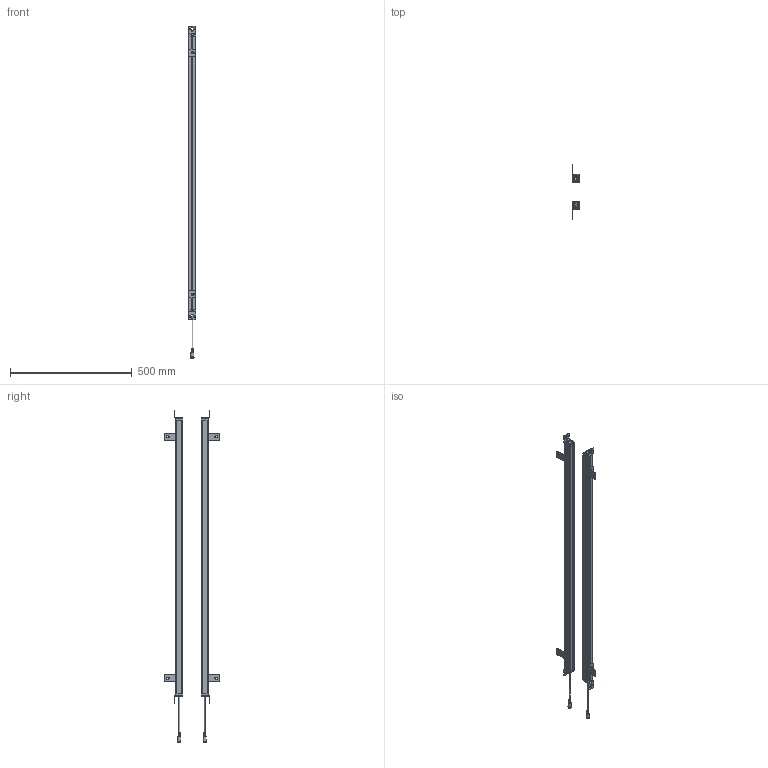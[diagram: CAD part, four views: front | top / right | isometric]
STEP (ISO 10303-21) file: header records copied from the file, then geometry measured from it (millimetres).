
FILE_DESCRIPTION(/* description */ (''),/* implementation_level */ '2;1');
FILE_NAME(/* name */ '5620（29x30）.stp',/* time_stamp */ '2023-04-28T14:33:51+08:00',/* author */ (''),/* organization */ (''),/* preprocessor_version */ 'ST-DEVELOPER v16.7',/* originating_system */ 'SIEMENS PLM Software NX 12.0',/* authorisation */ '');
FILE_SCHEMA (('AUTOMOTIVE_DESIGN { 1 0 10303 214 3 1 1 1 }'));
Products named in the file (1): 5620（29x30）_stp
Bounding box: 32.03 x 223.99 x 1361 mm (x, y, z)
Volume: 713777.7 mm3; surface area: 735856.7 mm2
Topology: 34 solids, 34 shells, 1610 faces, 4267 edges, 2771 vertices
Faces by surface type: plane 750, cylinder 648, bspline 88, sphere 36, cone 36, torus 32, extrusion 20
Full cylindrical faces by diameter (mm): 1.533 x6, 4.4 x4, 9 x2, 12.5 x2
Entity records: 56427 total; most frequent: CARTESIAN_POINT 16064, DIRECTION 8330, ORIENTED_EDGE 8324, EDGE_CURVE 4162, AXIS2_PLACEMENT_3D 2918, VERTEX_POINT 2696, VECTOR 2494, LINE 2474
